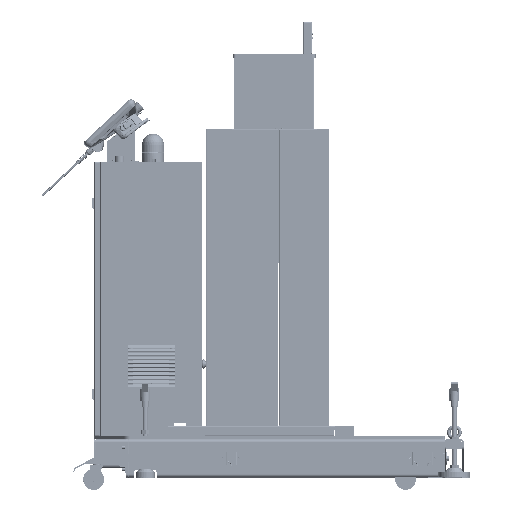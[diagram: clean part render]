
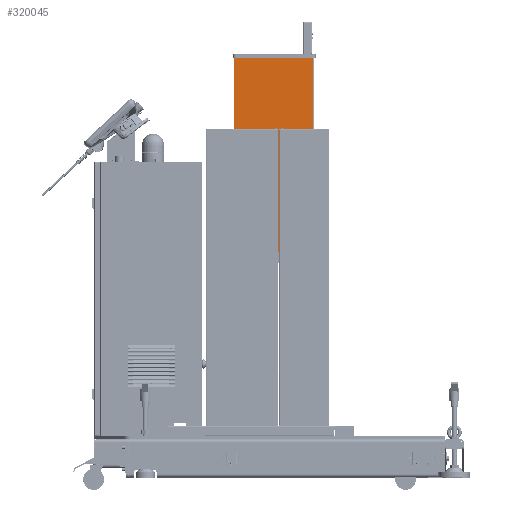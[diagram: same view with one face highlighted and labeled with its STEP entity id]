
A CAD part, top view. The second image highlights one B-rep face of the part: STEP entity #320045.
In plain terms, the highlighted planar face has unit normal (0, 0, 1).
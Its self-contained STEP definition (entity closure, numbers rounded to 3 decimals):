
#2782 = ORIENTED_EDGE ( 'NONE', *, *, #73794, .T. ) ;
#23182 = EDGE_CURVE ( 'NONE', #456535, #247743, #645812, .T. ) ;
#29396 = DIRECTION ( 'NONE',  ( -1., 0., 0. ) ) ;
#29684 = VERTEX_POINT ( 'NONE', #548566 ) ;
#33887 = CARTESIAN_POINT ( 'NONE',  ( 71.85, 1196., 125. ) ) ;
#54580 = DIRECTION ( 'NONE',  ( 0., 0., 1. ) ) ;
#62363 = VERTEX_POINT ( 'NONE', #509464 ) ;
#73794 = EDGE_CURVE ( 'NONE', #247743, #29684, #467811, .T. ) ;
#83160 = VECTOR ( 'NONE', #305117, 1000. ) ;
#86654 = CIRCLE ( 'NONE', #156686, 25. ) ;
#88462 = DIRECTION ( 'NONE',  ( 0., 0., 1. ) ) ;
#89741 = VECTOR ( 'NONE', #653459, 1000. ) ;
#95393 = CARTESIAN_POINT ( 'NONE',  ( 46.85, 513., 125. ) ) ;
#106226 = AXIS2_PLACEMENT_3D ( 'NONE', #406669, #199590, #562543 ) ;
#113756 = DIRECTION ( 'NONE',  ( 0., -1., 0. ) ) ;
#115357 = CARTESIAN_POINT ( 'NONE',  ( 86.1, 358., 125. ) ) ;
#139963 = CARTESIAN_POINT ( 'NONE',  ( 21.85, 1196., 125. ) ) ;
#146365 = LINE ( 'NONE', #33887, #246387 ) ;
#148162 = ORIENTED_EDGE ( 'NONE', *, *, #434785, .F. ) ;
#156686 = AXIS2_PLACEMENT_3D ( 'NONE', #95393, #88462, #251341 ) ;
#164326 = CARTESIAN_POINT ( 'NONE',  ( -160.4, 1196., 125. ) ) ;
#164644 = LINE ( 'NONE', #602286, #89741 ) ;
#167519 = EDGE_LOOP ( 'NONE', ( #2782, #638303, #649552, #323230, #487019, #316702, #236261 ) ) ;
#199590 = DIRECTION ( 'NONE',  ( 0., 0., 1. ) ) ;
#203285 = EDGE_LOOP ( 'NONE', ( #418555, #148162, #495416, #223729 ) ) ;
#205196 = CARTESIAN_POINT ( 'NONE',  ( -160.4, 1196., 125. ) ) ;
#213490 = LINE ( 'NONE', #418354, #513108 ) ;
#216050 = DIRECTION ( 'NONE',  ( -1., 0., 0. ) ) ;
#223729 = ORIENTED_EDGE ( 'NONE', *, *, #470977, .F. ) ;
#224851 = LINE ( 'NONE', #139963, #83160 ) ;
#234288 = EDGE_CURVE ( 'NONE', #440540, #516397, #547004, .T. ) ;
#236261 = ORIENTED_EDGE ( 'NONE', *, *, #23182, .T. ) ;
#246387 = VECTOR ( 'NONE', #247805, 1000. ) ;
#247743 = VERTEX_POINT ( 'NONE', #205196 ) ;
#247805 = DIRECTION ( 'NONE',  ( 0., 1., 0. ) ) ;
#251341 = DIRECTION ( 'NONE',  ( 1., 0., 0. ) ) ;
#252786 = CARTESIAN_POINT ( 'NONE',  ( -156.4, 589., 125. ) ) ;
#273814 = FACE_OUTER_BOUND ( 'NONE', #167519, .T. ) ;
#290441 = CARTESIAN_POINT ( 'NONE',  ( 71.85, 463., 125. ) ) ;
#292167 = CARTESIAN_POINT ( 'NONE',  ( 7.6, 358., 125. ) ) ;
#305117 = DIRECTION ( 'NONE',  ( 0., -1., 0. ) ) ;
#306332 = DIRECTION ( 'NONE',  ( 0., 0., 1. ) ) ;
#316702 = ORIENTED_EDGE ( 'NONE', *, *, #379090, .F. ) ;
#319370 = CARTESIAN_POINT ( 'NONE',  ( 7.6, 585., 125. ) ) ;
#320045 = ADVANCED_FACE ( 'NONE', ( #273814, #407349 ), #324398, .T. ) ;
#323230 = ORIENTED_EDGE ( 'NONE', *, *, #366769, .F. ) ;
#324398 = PLANE ( 'NONE',  #430487 ) ;
#338695 = VECTOR ( 'NONE', #216050, 1000. ) ;
#341828 = EDGE_CURVE ( 'NONE', #29684, #685395, #596620, .T. ) ;
#343962 = EDGE_CURVE ( 'NONE', #62363, #483543, #86654, .T. ) ;
#356273 = VERTEX_POINT ( 'NONE', #290441 ) ;
#366769 = EDGE_CURVE ( 'NONE', #516397, #669125, #213490, .T. ) ;
#368499 = CIRCLE ( 'NONE', #106226, 25. ) ;
#378150 = CARTESIAN_POINT ( 'NONE',  ( 86.1, 1196., 125. ) ) ;
#379090 = EDGE_CURVE ( 'NONE', #456535, #440540, #685317, .T. ) ;
#390414 = CARTESIAN_POINT ( 'NONE',  ( -156.4, 585., 125. ) ) ;
#406669 = CARTESIAN_POINT ( 'NONE',  ( 46.85, 463., 125. ) ) ;
#407349 = FACE_BOUND ( 'NONE', #203285, .T. ) ;
#418354 = CARTESIAN_POINT ( 'NONE',  ( 7.6, 358., 125. ) ) ;
#418555 = ORIENTED_EDGE ( 'NONE', *, *, #644997, .F. ) ;
#427581 = CARTESIAN_POINT ( 'NONE',  ( 89.6, 358., 125. ) ) ;
#430487 = AXIS2_PLACEMENT_3D ( 'NONE', #636148, #54580, #587275 ) ;
#434785 = EDGE_CURVE ( 'NONE', #483543, #589385, #224851, .T. ) ;
#440540 = VERTEX_POINT ( 'NONE', #115357 ) ;
#456535 = VERTEX_POINT ( 'NONE', #378150 ) ;
#467811 = LINE ( 'NONE', #164326, #542690 ) ;
#470977 = EDGE_CURVE ( 'NONE', #356273, #62363, #146365, .T. ) ;
#476055 = DIRECTION ( 'NONE',  ( 0., -1., 0. ) ) ;
#478783 = EDGE_CURVE ( 'NONE', #669125, #685395, #164644, .T. ) ;
#483543 = VERTEX_POINT ( 'NONE', #568227 ) ;
#487019 = ORIENTED_EDGE ( 'NONE', *, *, #234288, .F. ) ;
#495416 = ORIENTED_EDGE ( 'NONE', *, *, #343962, .F. ) ;
#506221 = CARTESIAN_POINT ( 'NONE',  ( 89.6, 1196., 125. ) ) ;
#509464 = CARTESIAN_POINT ( 'NONE',  ( 71.85, 513., 125. ) ) ;
#513108 = VECTOR ( 'NONE', #525410, 1000. ) ;
#515234 = CARTESIAN_POINT ( 'NONE',  ( 21.85, 463., 125. ) ) ;
#516397 = VERTEX_POINT ( 'NONE', #292167 ) ;
#525410 = DIRECTION ( 'NONE',  ( 0., 1., 0. ) ) ;
#542690 = VECTOR ( 'NONE', #476055, 1000. ) ;
#547004 = LINE ( 'NONE', #427581, #338695 ) ;
#548566 = CARTESIAN_POINT ( 'NONE',  ( -160.4, 589., 125. ) ) ;
#551819 = AXIS2_PLACEMENT_3D ( 'NONE', #252786, #306332, #573749 ) ;
#562543 = DIRECTION ( 'NONE',  ( 1., 0., 0. ) ) ;
#568227 = CARTESIAN_POINT ( 'NONE',  ( 21.85, 513., 125. ) ) ;
#573749 = DIRECTION ( 'NONE',  ( 1., 0., 0. ) ) ;
#587275 = DIRECTION ( 'NONE',  ( 1., 0., 0. ) ) ;
#587835 = VECTOR ( 'NONE', #29396, 1000. ) ;
#589385 = VERTEX_POINT ( 'NONE', #515234 ) ;
#596620 = CIRCLE ( 'NONE', #551819, 4. ) ;
#602286 = CARTESIAN_POINT ( 'NONE',  ( -160.4, 585., 125. ) ) ;
#610485 = VECTOR ( 'NONE', #113756, 1000. ) ;
#636148 = CARTESIAN_POINT ( 'NONE',  ( 89.6, 1196., 125. ) ) ;
#638303 = ORIENTED_EDGE ( 'NONE', *, *, #341828, .T. ) ;
#644997 = EDGE_CURVE ( 'NONE', #589385, #356273, #368499, .T. ) ;
#645812 = LINE ( 'NONE', #506221, #587835 ) ;
#649552 = ORIENTED_EDGE ( 'NONE', *, *, #478783, .F. ) ;
#653150 = CARTESIAN_POINT ( 'NONE',  ( 86.1, 1196., 125. ) ) ;
#653459 = DIRECTION ( 'NONE',  ( -1., 0., 0. ) ) ;
#669125 = VERTEX_POINT ( 'NONE', #319370 ) ;
#685317 = LINE ( 'NONE', #653150, #610485 ) ;
#685395 = VERTEX_POINT ( 'NONE', #390414 ) ;
